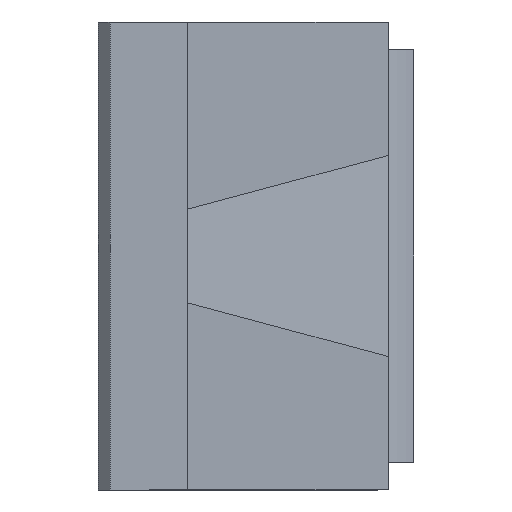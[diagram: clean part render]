
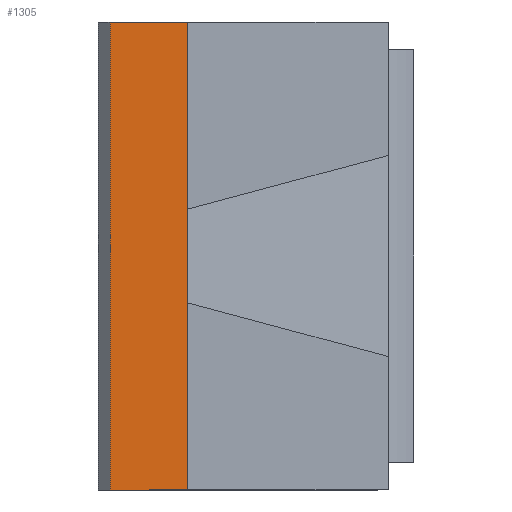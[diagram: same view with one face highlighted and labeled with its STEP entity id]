
A CAD part, left-side view. The second image highlights one B-rep face of the part: STEP entity #1305.
In plain terms, the highlighted planar face has unit normal (-1, 0, 0).
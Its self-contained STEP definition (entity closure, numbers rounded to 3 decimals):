
#429=CARTESIAN_POINT('',(-31.0,9.86,22.7));
#430=VERTEX_POINT('',#429);
#475=CARTESIAN_POINT('',(-31.,9.86,39.5));
#476=VERTEX_POINT('',#475);
#483=CARTESIAN_POINT('',(-31.0,9.86,22.7));
#484=DIRECTION('',(0.0,0.0,1.0));
#485=VECTOR('',#484,16.8);
#486=LINE('',#483,#485);
#487=EDGE_CURVE('',#430,#476,#486,.T.);
#532=CARTESIAN_POINT('',(-31.0,9.86,14.3));
#533=VERTEX_POINT('',#532);
#581=CARTESIAN_POINT('',(-31.,9.86,-2.5));
#582=VERTEX_POINT('',#581);
#583=CARTESIAN_POINT('',(-31.,9.86,-2.5));
#584=DIRECTION('',(0.0,0.0,1.0));
#585=VECTOR('',#584,16.8);
#586=LINE('',#583,#585);
#587=EDGE_CURVE('',#582,#533,#586,.T.);
#767=CARTESIAN_POINT('',(-31.,16.82,39.5));
#768=VERTEX_POINT('',#767);
#775=CARTESIAN_POINT('',(-31.,9.86,39.5));
#776=DIRECTION('',(0.0,1.0,0.0));
#777=VECTOR('',#776,6.96);
#778=LINE('',#775,#777);
#779=EDGE_CURVE('',#476,#768,#778,.T.);
#984=CARTESIAN_POINT('',(-31.,16.82,-2.5));
#985=VERTEX_POINT('',#984);
#986=CARTESIAN_POINT('',(-31.,16.82,-2.5));
#987=DIRECTION('',(0.0,-1.0,0.0));
#988=VECTOR('',#987,6.96);
#989=LINE('',#986,#988);
#990=EDGE_CURVE('',#985,#582,#989,.T.);
#1271=CARTESIAN_POINT('',(-31.,16.82,-2.5));
#1272=DIRECTION('',(0.0,0.0,1.0));
#1273=VECTOR('',#1272,42.0);
#1274=LINE('',#1271,#1273);
#1275=EDGE_CURVE('',#985,#768,#1274,.T.);
#1287=CARTESIAN_POINT('',(-31.,9.86,18.5));
#1288=DIRECTION('',(-1.0,0.0,0.0));
#1289=DIRECTION('',(0.0,0.0,1.0));
#1290=AXIS2_PLACEMENT_3D('',#1287,#1288,#1289);
#1291=PLANE('',#1290);
#1292=ORIENTED_EDGE('',*,*,#1275,.F.);
#1293=ORIENTED_EDGE('',*,*,#990,.T.);
#1294=ORIENTED_EDGE('',*,*,#587,.T.);
#1295=CARTESIAN_POINT('',(-31.0,9.86,14.3));
#1296=DIRECTION('',(0.0,0.0,1.0));
#1297=VECTOR('',#1296,8.4);
#1298=LINE('',#1295,#1297);
#1299=EDGE_CURVE('',#533,#430,#1298,.T.);
#1300=ORIENTED_EDGE('',*,*,#1299,.T.);
#1301=ORIENTED_EDGE('',*,*,#487,.T.);
#1302=ORIENTED_EDGE('',*,*,#779,.T.);
#1303=EDGE_LOOP('',(#1292,#1293,#1294,#1300,#1301,#1302));
#1304=FACE_OUTER_BOUND('',#1303,.T.);
#1305=ADVANCED_FACE('',(#1304),#1291,.T.);
